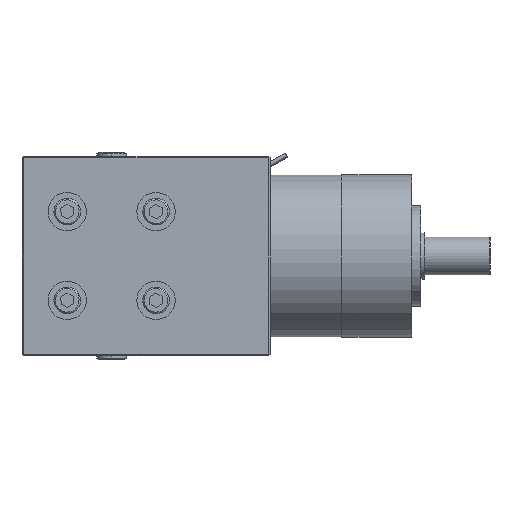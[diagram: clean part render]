
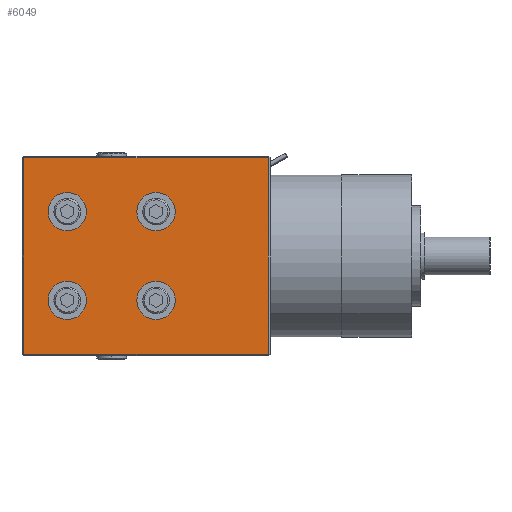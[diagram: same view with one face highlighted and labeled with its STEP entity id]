
A CAD part, front view. The second image highlights one B-rep face of the part: STEP entity #6049.
In plain terms, the highlighted planar face has unit normal (0, -1, 0).
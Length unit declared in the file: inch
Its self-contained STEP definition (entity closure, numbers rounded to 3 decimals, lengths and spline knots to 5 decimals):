
#66 = ORIENTED_EDGE ( 'NONE', *, *, #12135, .F. ) ;
#83 = EDGE_CURVE ( 'NONE', #6189, #14642, #11899, .T. ) ;
#125 = CARTESIAN_POINT ( 'NONE',  ( 7.72172, 0.74643, 2.40687 ) ) ;
#181 = CARTESIAN_POINT ( 'NONE',  ( 6.31056, 0.74643, 3.32097 ) ) ;
#282 = DIRECTION ( 'NONE',  ( 0., 0., 1. ) ) ;
#501 = CARTESIAN_POINT ( 'NONE',  ( 6.31056, 0.74643, 2.83908 ) ) ;
#583 = ORIENTED_EDGE ( 'NONE', *, *, #9287, .T. ) ;
#694 = ORIENTED_EDGE ( 'NONE', *, *, #2371, .F. ) ;
#763 = DIRECTION ( 'NONE',  ( 0., -1., 0. ) ) ;
#772 = CARTESIAN_POINT ( 'NONE',  ( 4.62872, 0.74643, 2.40687 ) ) ;
#793 = CARTESIAN_POINT ( 'NONE',  ( 6.31056, 0.74643, 3.08003 ) ) ;
#809 = FACE_BOUND ( 'NONE', #4389, .T. ) ;
#1079 = DIRECTION ( 'NONE',  ( 0., 0., -1. ) ) ;
#1172 = FACE_BOUND ( 'NONE', #9856, .T. ) ;
#1215 = DIRECTION ( 'NONE',  ( 0., -1., 0. ) ) ;
#1253 = LINE ( 'NONE', #8561, #7056 ) ;
#1478 = CARTESIAN_POINT ( 'NONE',  ( 5.19687, 0.74643, 3.95278 ) ) ;
#1485 = DIRECTION ( 'NONE',  ( -1., 0., 0. ) ) ;
#1880 = DIRECTION ( 'NONE',  ( 0., 0., -1. ) ) ;
#2195 = CARTESIAN_POINT ( 'NONE',  ( 4.64872, 0.74643, 2.40687 ) ) ;
#2338 = CARTESIAN_POINT ( 'NONE',  ( 4.62872, 0.74643, 4.88687 ) ) ;
#2371 = EDGE_CURVE ( 'NONE', #13596, #12660, #4911, .T. ) ;
#2791 = ORIENTED_EDGE ( 'NONE', *, *, #10919, .F. ) ;
#3011 = AXIS2_PLACEMENT_3D ( 'NONE', #12205, #8750, #13507 ) ;
#3076 = ORIENTED_EDGE ( 'NONE', *, *, #3715, .F. ) ;
#3173 = DIRECTION ( 'NONE',  ( 0., -1., 0. ) ) ;
#3192 = CARTESIAN_POINT ( 'NONE',  ( 6.31056, 0.74643, 4.43467 ) ) ;
#3212 = VERTEX_POINT ( 'NONE', #12198 ) ;
#3378 = LINE ( 'NONE', #4813, #14571 ) ;
#3447 = ORIENTED_EDGE ( 'NONE', *, *, #6752, .F. ) ;
#3678 = CARTESIAN_POINT ( 'NONE',  ( 6.31056, 0.74643, 3.95278 ) ) ;
#3715 = EDGE_CURVE ( 'NONE', #14642, #6189, #7684, .T. ) ;
#3859 = EDGE_CURVE ( 'NONE', #14911, #12291, #7311, .T. ) ;
#3981 = FACE_BOUND ( 'NONE', #8613, .T. ) ;
#4232 = AXIS2_PLACEMENT_3D ( 'NONE', #2338, #4534, #9352 ) ;
#4389 = EDGE_LOOP ( 'NONE', ( #66, #3447 ) ) ;
#4400 = CARTESIAN_POINT ( 'NONE',  ( 5.19687, 0.74643, 2.83908 ) ) ;
#4465 = DIRECTION ( 'NONE',  ( 1., 0., 0. ) ) ;
#4534 = DIRECTION ( 'NONE',  ( 0., 1., 0. ) ) ;
#4813 = CARTESIAN_POINT ( 'NONE',  ( 7.72172, 0.74643, 4.88687 ) ) ;
#4818 = AXIS2_PLACEMENT_3D ( 'NONE', #793, #3173, #1880 ) ;
#4909 = CARTESIAN_POINT ( 'NONE',  ( 5.19687, 0.74643, 3.08003 ) ) ;
#4911 = CIRCLE ( 'NONE', #9421, 0.24094 ) ;
#5412 = CARTESIAN_POINT ( 'NONE',  ( 6.31056, 0.74643, 4.19372 ) ) ;
#5521 = DIRECTION ( 'NONE',  ( 0., 0., -1. ) ) ;
#6049 = ADVANCED_FACE ( 'NONE', ( #12368, #1172, #3981, #11996, #809 ), #12933, .F. ) ;
#6112 = DIRECTION ( 'NONE',  ( 0., -1., 0. ) ) ;
#6189 = VERTEX_POINT ( 'NONE', #1478 ) ;
#6540 = EDGE_CURVE ( 'NONE', #12660, #13596, #10067, .T. ) ;
#6560 = EDGE_CURVE ( 'NONE', #15067, #6619, #3378, .T. ) ;
#6619 = VERTEX_POINT ( 'NONE', #14546 ) ;
#6752 = EDGE_CURVE ( 'NONE', #7526, #12483, #8781, .T. ) ;
#6792 = AXIS2_PLACEMENT_3D ( 'NONE', #9635, #1215, #9530 ) ;
#6904 = AXIS2_PLACEMENT_3D ( 'NONE', #9427, #11740, #10583 ) ;
#6986 = VECTOR ( 'NONE', #4465, 39.37008 ) ;
#7056 = VECTOR ( 'NONE', #1485, 39.37008 ) ;
#7311 = CIRCLE ( 'NONE', #4818, 0.24094 ) ;
#7526 = VERTEX_POINT ( 'NONE', #3192 ) ;
#7628 = AXIS2_PLACEMENT_3D ( 'NONE', #5412, #7855, #5521 ) ;
#7684 = CIRCLE ( 'NONE', #8300, 0.24094 ) ;
#7742 = CARTESIAN_POINT ( 'NONE',  ( 5.19687, 0.74643, 3.08003 ) ) ;
#7855 = DIRECTION ( 'NONE',  ( 0., -1., 0. ) ) ;
#7893 = LINE ( 'NONE', #772, #6986 ) ;
#7944 = DIRECTION ( 'NONE',  ( 0., 0., -1. ) ) ;
#8077 = VECTOR ( 'NONE', #1079, 39.37008 ) ;
#8300 = AXIS2_PLACEMENT_3D ( 'NONE', #11108, #13515, #12415 ) ;
#8498 = EDGE_LOOP ( 'NONE', ( #13205, #2791 ) ) ;
#8561 = CARTESIAN_POINT ( 'NONE',  ( 4.62872, 0.74643, 4.86687 ) ) ;
#8613 = EDGE_LOOP ( 'NONE', ( #8667, #694 ) ) ;
#8667 = ORIENTED_EDGE ( 'NONE', *, *, #6540, .F. ) ;
#8750 = DIRECTION ( 'NONE',  ( 0., -1., 0. ) ) ;
#8781 = CIRCLE ( 'NONE', #7628, 0.24094 ) ;
#9122 = CARTESIAN_POINT ( 'NONE',  ( 5.19687, 0.74643, 4.43467 ) ) ;
#9287 = EDGE_CURVE ( 'NONE', #6619, #3212, #1253, .T. ) ;
#9352 = DIRECTION ( 'NONE',  ( 0., 0., 1. ) ) ;
#9421 = AXIS2_PLACEMENT_3D ( 'NONE', #7742, #763, #7944 ) ;
#9427 = CARTESIAN_POINT ( 'NONE',  ( 6.31056, 0.74643, 4.19372 ) ) ;
#9498 = CARTESIAN_POINT ( 'NONE',  ( 4.64872, 0.74643, 4.88687 ) ) ;
#9530 = DIRECTION ( 'NONE',  ( 0., 0., -1. ) ) ;
#9635 = CARTESIAN_POINT ( 'NONE',  ( 6.31056, 0.74643, 3.08003 ) ) ;
#9856 = EDGE_LOOP ( 'NONE', ( #15349, #3076 ) ) ;
#10046 = VERTEX_POINT ( 'NONE', #2195 ) ;
#10067 = CIRCLE ( 'NONE', #13529, 0.24094 ) ;
#10307 = LINE ( 'NONE', #9498, #8077 ) ;
#10315 = EDGE_CURVE ( 'NONE', #3212, #10046, #10307, .T. ) ;
#10317 = ORIENTED_EDGE ( 'NONE', *, *, #12391, .T. ) ;
#10583 = DIRECTION ( 'NONE',  ( 0., 0., -1. ) ) ;
#10919 = EDGE_CURVE ( 'NONE', #12291, #14911, #12914, .T. ) ;
#11108 = CARTESIAN_POINT ( 'NONE',  ( 5.19687, 0.74643, 4.19372 ) ) ;
#11482 = CARTESIAN_POINT ( 'NONE',  ( 5.19687, 0.74643, 3.32097 ) ) ;
#11740 = DIRECTION ( 'NONE',  ( 0., -1., 0. ) ) ;
#11899 = CIRCLE ( 'NONE', #3011, 0.24094 ) ;
#11996 = FACE_BOUND ( 'NONE', #8498, .T. ) ;
#12135 = EDGE_CURVE ( 'NONE', #12483, #7526, #13593, .T. ) ;
#12198 = CARTESIAN_POINT ( 'NONE',  ( 4.64872, 0.74643, 4.86687 ) ) ;
#12205 = CARTESIAN_POINT ( 'NONE',  ( 5.19687, 0.74643, 4.19372 ) ) ;
#12229 = ORIENTED_EDGE ( 'NONE', *, *, #6560, .T. ) ;
#12291 = VERTEX_POINT ( 'NONE', #181 ) ;
#12368 = FACE_OUTER_BOUND ( 'NONE', #14617, .T. ) ;
#12391 = EDGE_CURVE ( 'NONE', #10046, #15067, #7893, .T. ) ;
#12415 = DIRECTION ( 'NONE',  ( 0., 0., -1. ) ) ;
#12483 = VERTEX_POINT ( 'NONE', #3678 ) ;
#12660 = VERTEX_POINT ( 'NONE', #4400 ) ;
#12914 = CIRCLE ( 'NONE', #6792, 0.24094 ) ;
#12933 = PLANE ( 'NONE',  #4232 ) ;
#13205 = ORIENTED_EDGE ( 'NONE', *, *, #3859, .F. ) ;
#13303 = DIRECTION ( 'NONE',  ( 0., 0., -1. ) ) ;
#13507 = DIRECTION ( 'NONE',  ( 0., 0., -1. ) ) ;
#13515 = DIRECTION ( 'NONE',  ( 0., -1., 0. ) ) ;
#13529 = AXIS2_PLACEMENT_3D ( 'NONE', #4909, #6112, #13303 ) ;
#13593 = CIRCLE ( 'NONE', #6904, 0.24094 ) ;
#13596 = VERTEX_POINT ( 'NONE', #11482 ) ;
#14304 = ORIENTED_EDGE ( 'NONE', *, *, #10315, .T. ) ;
#14546 = CARTESIAN_POINT ( 'NONE',  ( 7.72172, 0.74643, 4.86687 ) ) ;
#14571 = VECTOR ( 'NONE', #282, 39.37008 ) ;
#14617 = EDGE_LOOP ( 'NONE', ( #10317, #12229, #583, #14304 ) ) ;
#14642 = VERTEX_POINT ( 'NONE', #9122 ) ;
#14911 = VERTEX_POINT ( 'NONE', #501 ) ;
#15067 = VERTEX_POINT ( 'NONE', #125 ) ;
#15349 = ORIENTED_EDGE ( 'NONE', *, *, #83, .F. ) ;
